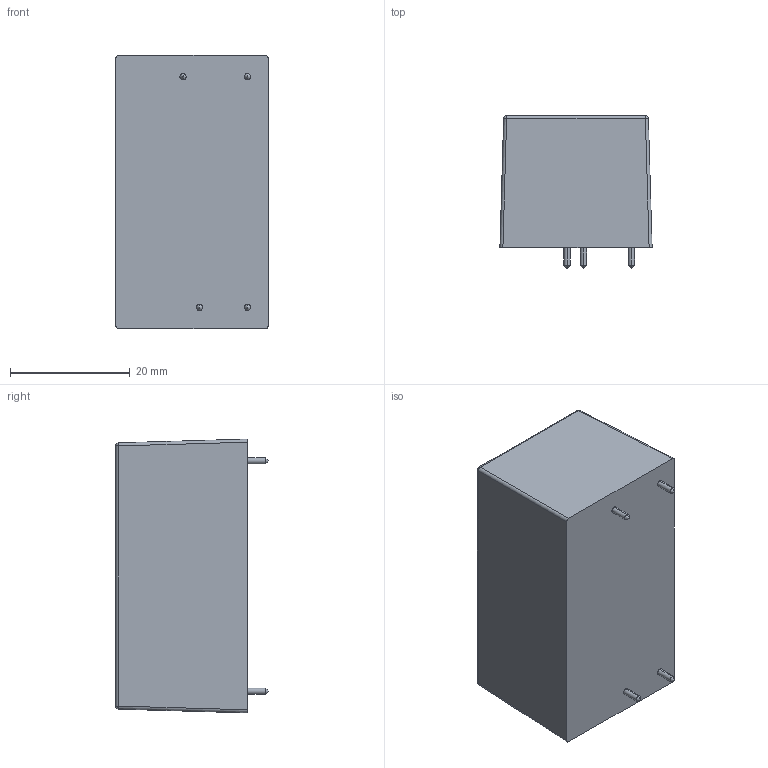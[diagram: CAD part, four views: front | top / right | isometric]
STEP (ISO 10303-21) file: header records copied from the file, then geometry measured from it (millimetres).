
FILE_DESCRIPTION (( 'STEP AP214' ), '1' );
FILE_NAME ('User Library-IRM-10-12.STEP', '2018-01-03T10:46:59', ( '' ), ( '' ), 'SwSTEP 2.0', 'SolidWorks 2018', '' );
FILE_SCHEMA (( 'AUTOMOTIVE_DESIGN' ));
Length unit declared in the file: millimetre
Products named in the file (1): User Library-IRM-10-12
Bounding box: 25.4 x 25.55 x 45.7 mm (x, y, z)
Surface area: 5401.3 mm2 (no closed solid volume)
Topology: 0 solids, 11 shells, 1294 faces, 3394 edges, 2256 vertices
Faces by surface type: plane 850, bspline 412, cylinder 24, cone 8
Entity records: 55329 total; most frequent: CARTESIAN_POINT 11827, ORIENTED_EDGE 6780, DIRECTION 4392, EDGE_CURVE 3394, VECTOR 2522, LINE 2522, VERTEX_POINT 2256, EDGE_LOOP 1434
